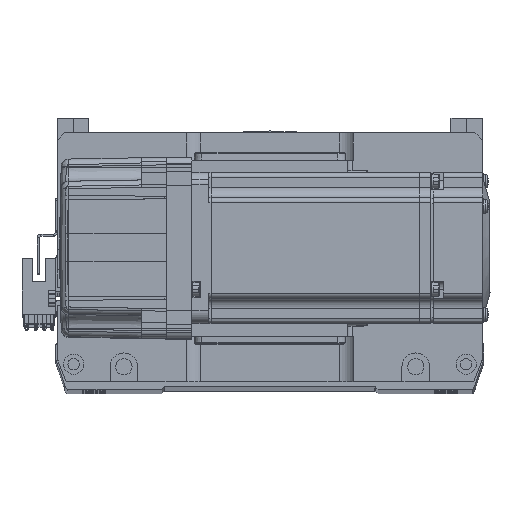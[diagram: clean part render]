
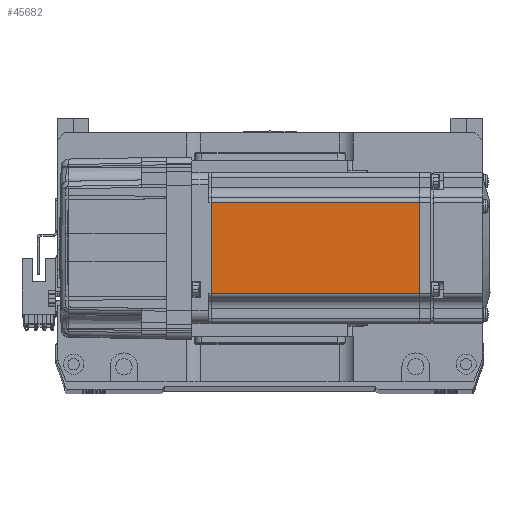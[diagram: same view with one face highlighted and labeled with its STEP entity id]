
A CAD part, top view. The second image highlights one B-rep face of the part: STEP entity #45682.
In plain terms, the highlighted planar face has unit normal (0, 0, 1) as drawn and (0, -1, 0) by its records, which use the part's own axes.
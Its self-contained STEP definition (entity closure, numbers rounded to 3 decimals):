
#2264 = ORIENTED_EDGE ( 'NONE', *, *, #37618, .T. ) ;
#2860 = ORIENTED_EDGE ( 'NONE', *, *, #61709, .T. ) ;
#2908 = ORIENTED_EDGE ( 'NONE', *, *, #21905, .T. ) ;
#5343 = DIRECTION ( 'NONE',  ( 0., 0., -1. ) ) ;
#5998 = VERTEX_POINT ( 'NONE', #13181 ) ;
#6379 = CARTESIAN_POINT ( 'NONE',  ( -90.45, -30., -18. ) ) ;
#7238 = CARTESIAN_POINT ( 'NONE',  ( -6.5, -30., 18. ) ) ;
#11088 = LINE ( 'NONE', #7238, #12611 ) ;
#12611 = VECTOR ( 'NONE', #26541, 1000. ) ;
#13181 = CARTESIAN_POINT ( 'NONE',  ( -90.45, -30., 18. ) ) ;
#14689 = CARTESIAN_POINT ( 'NONE',  ( -6.5, -30., -25. ) ) ;
#14949 = EDGE_LOOP ( 'NONE', ( #2908, #29541, #2264, #2860 ) ) ;
#15498 = DIRECTION ( 'NONE',  ( 1., 0., 0. ) ) ;
#16531 = VECTOR ( 'NONE', #60771, 1000. ) ;
#20806 = CARTESIAN_POINT ( 'NONE',  ( -7.75, -30., -18. ) ) ;
#21905 = EDGE_CURVE ( 'NONE', #24502, #27327, #58572, .T. ) ;
#23543 = CARTESIAN_POINT ( 'NONE',  ( -7.75, -30., 18. ) ) ;
#24502 = VERTEX_POINT ( 'NONE', #20806 ) ;
#25141 = CARTESIAN_POINT ( 'NONE',  ( -7.75, -30., -25. ) ) ;
#26255 = VECTOR ( 'NONE', #46449, 1000. ) ;
#26541 = DIRECTION ( 'NONE',  ( -1., 0., 0. ) ) ;
#27327 = VERTEX_POINT ( 'NONE', #23543 ) ;
#29541 = ORIENTED_EDGE ( 'NONE', *, *, #44868, .T. ) ;
#33621 = PLANE ( 'NONE',  #51002 ) ;
#35293 = CARTESIAN_POINT ( 'NONE',  ( -6.5, -30., -18. ) ) ;
#37618 = EDGE_CURVE ( 'NONE', #5998, #58827, #49287, .T. ) ;
#44868 = EDGE_CURVE ( 'NONE', #27327, #5998, #11088, .T. ) ;
#44931 = VECTOR ( 'NONE', #15498, 1000. ) ;
#45682 = ADVANCED_FACE ( 'NONE', ( #48356 ), #33621, .T. ) ;
#46449 = DIRECTION ( 'NONE',  ( 0., 0., 1. ) ) ;
#48356 = FACE_OUTER_BOUND ( 'NONE', #14949, .T. ) ;
#49287 = LINE ( 'NONE', #56735, #16531 ) ;
#51002 = AXIS2_PLACEMENT_3D ( 'NONE', #14689, #53864, #5343 ) ;
#53257 = LINE ( 'NONE', #35293, #44931 ) ;
#53864 = DIRECTION ( 'NONE',  ( 0., -1., 0. ) ) ;
#56735 = CARTESIAN_POINT ( 'NONE',  ( -90.45, -30., -25. ) ) ;
#58572 = LINE ( 'NONE', #25141, #26255 ) ;
#58827 = VERTEX_POINT ( 'NONE', #6379 ) ;
#60771 = DIRECTION ( 'NONE',  ( 0., 0., -1. ) ) ;
#61709 = EDGE_CURVE ( 'NONE', #58827, #24502, #53257, .T. ) ;
